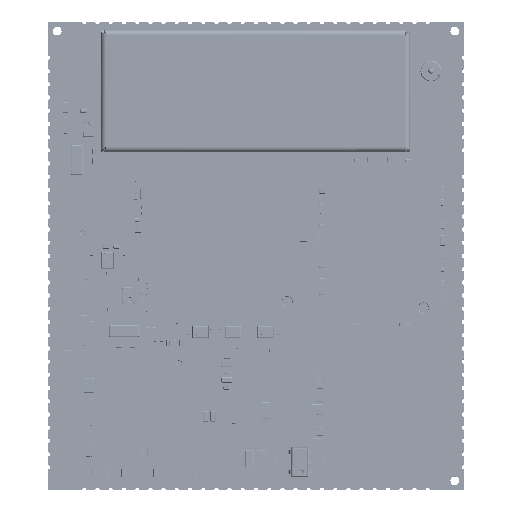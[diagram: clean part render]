
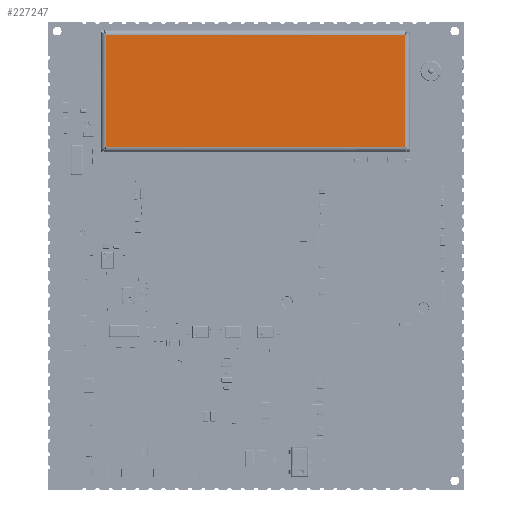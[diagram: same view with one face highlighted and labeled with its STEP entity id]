
A CAD part, top view. The second image highlights one B-rep face of the part: STEP entity #227247.
In plain terms, the highlighted planar face has unit normal (0, 0, 1) as drawn and (0, 1, 0) by its records, which use the part's own axes.
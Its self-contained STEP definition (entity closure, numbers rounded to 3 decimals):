
#227247 = ADVANCED_FACE('',(#227248),#227282,.T.);
#227248 = FACE_BOUND('',#227249,.T.);
#227249 = EDGE_LOOP('',(#227250,#227260,#227268,#227276));
#227250 = ORIENTED_EDGE('',*,*,#227251,.T.);
#227251 = EDGE_CURVE('',#227252,#227254,#227256,.T.);
#227252 = VERTEX_POINT('',#227253);
#227253 = CARTESIAN_POINT('',(14.369,0.,-5.372));
#227254 = VERTEX_POINT('',#227255);
#227255 = CARTESIAN_POINT('',(-14.369,0.,-5.372));
#227256 = LINE('',#227257,#227258);
#227257 = CARTESIAN_POINT('',(14.623,0.,-5.372));
#227258 = VECTOR('',#227259,1.);
#227259 = DIRECTION('',(-1.,0.,0.));
#227260 = ORIENTED_EDGE('',*,*,#227261,.T.);
#227261 = EDGE_CURVE('',#227254,#227262,#227264,.T.);
#227262 = VERTEX_POINT('',#227263);
#227263 = CARTESIAN_POINT('',(-14.369,0.,5.372));
#227264 = LINE('',#227265,#227266);
#227265 = CARTESIAN_POINT('',(-14.369,0.,-5.372));
#227266 = VECTOR('',#227267,1.);
#227267 = DIRECTION('',(0.,0.,1.));
#227268 = ORIENTED_EDGE('',*,*,#227269,.T.);
#227269 = EDGE_CURVE('',#227262,#227270,#227272,.T.);
#227270 = VERTEX_POINT('',#227271);
#227271 = CARTESIAN_POINT('',(14.369,0.,5.372));
#227272 = LINE('',#227273,#227274);
#227273 = CARTESIAN_POINT('',(-14.623,0.,5.372));
#227274 = VECTOR('',#227275,1.);
#227275 = DIRECTION('',(1.,0.,0.));
#227276 = ORIENTED_EDGE('',*,*,#227277,.T.);
#227277 = EDGE_CURVE('',#227270,#227252,#227278,.T.);
#227278 = LINE('',#227279,#227280);
#227279 = CARTESIAN_POINT('',(14.369,0.,5.372));
#227280 = VECTOR('',#227281,1.);
#227281 = DIRECTION('',(0.,0.,-1.));
#227282 = PLANE('',#227283);
#227283 = AXIS2_PLACEMENT_3D('',#227284,#227285,#227286);
#227284 = CARTESIAN_POINT('',(0.,0.,
    0.));
#227285 = DIRECTION('',(0.,1.,0.));
#227286 = DIRECTION('',(0.,0.,1.));
